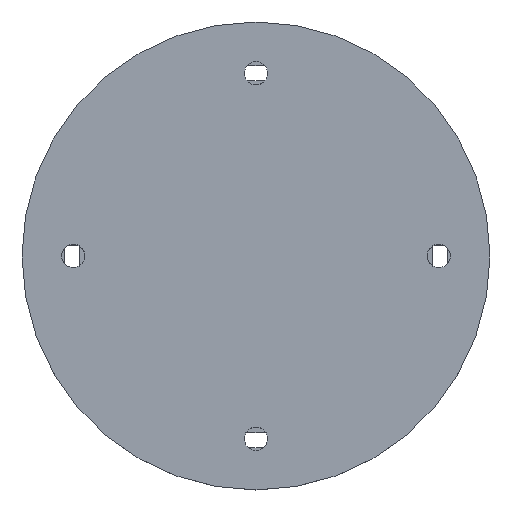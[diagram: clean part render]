
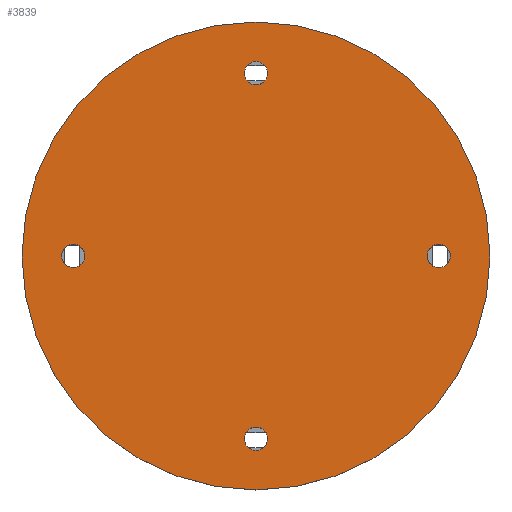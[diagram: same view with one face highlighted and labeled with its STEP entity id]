
A CAD part, top view. The second image highlights one B-rep face of the part: STEP entity #3839.
In plain terms, the highlighted planar face has unit normal (0, 0, 1).
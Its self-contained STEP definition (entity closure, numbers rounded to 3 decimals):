
#63=FACE_BOUND('',#475,.T.);
#64=FACE_BOUND('',#476,.T.);
#65=FACE_BOUND('',#477,.T.);
#66=FACE_BOUND('',#478,.T.);
#102=PLANE('',#4075);
#264=FACE_OUTER_BOUND('',#474,.T.);
#474=EDGE_LOOP('',(#2655));
#475=EDGE_LOOP('',(#2656));
#476=EDGE_LOOP('',(#2657));
#477=EDGE_LOOP('',(#2658));
#478=EDGE_LOOP('',(#2659));
#1545=CIRCLE('',#4062,1.55);
#1547=CIRCLE('',#4065,1.55);
#1549=CIRCLE('',#4068,1.55);
#1551=CIRCLE('',#4071,1.55);
#1552=CIRCLE('',#4073,31.);
#1679=VERTEX_POINT('',#5511);
#1681=VERTEX_POINT('',#5517);
#1683=VERTEX_POINT('',#5523);
#1685=VERTEX_POINT('',#5529);
#1686=VERTEX_POINT('',#5533);
#2058=EDGE_CURVE('',#1679,#1679,#1545,.T.);
#2061=EDGE_CURVE('',#1681,#1681,#1547,.T.);
#2064=EDGE_CURVE('',#1683,#1683,#1549,.T.);
#2067=EDGE_CURVE('',#1685,#1685,#1551,.T.);
#2068=EDGE_CURVE('',#1686,#1686,#1552,.T.);
#2655=ORIENTED_EDGE('',*,*,#2068,.T.);
#2656=ORIENTED_EDGE('',*,*,#2058,.T.);
#2657=ORIENTED_EDGE('',*,*,#2061,.T.);
#2658=ORIENTED_EDGE('',*,*,#2064,.T.);
#2659=ORIENTED_EDGE('',*,*,#2067,.T.);
#3839=ADVANCED_FACE('',(#264,#63,#64,#65,#66),#102,.T.);
#4062=AXIS2_PLACEMENT_3D('',#5513,#4411,#4412);
#4065=AXIS2_PLACEMENT_3D('',#5519,#4418,#4419);
#4068=AXIS2_PLACEMENT_3D('',#5525,#4425,#4426);
#4071=AXIS2_PLACEMENT_3D('',#5531,#4432,#4433);
#4073=AXIS2_PLACEMENT_3D('',#5534,#4436,#4437);
#4075=AXIS2_PLACEMENT_3D('',#5538,#4441,#4442);
#4411=DIRECTION('center_axis',(0.,0.,-1.));
#4412=DIRECTION('ref_axis',(1.,0.,0.));
#4418=DIRECTION('center_axis',(0.,0.,-1.));
#4419=DIRECTION('ref_axis',(1.,0.,0.));
#4425=DIRECTION('center_axis',(0.,0.,-1.));
#4426=DIRECTION('ref_axis',(1.,0.,0.));
#4432=DIRECTION('center_axis',(0.,0.,-1.));
#4433=DIRECTION('ref_axis',(1.,0.,0.));
#4436=DIRECTION('center_axis',(0.,0.,1.));
#4437=DIRECTION('ref_axis',(1.,0.,0.));
#4441=DIRECTION('center_axis',(0.,0.,1.));
#4442=DIRECTION('ref_axis',(1.,0.,0.));
#5511=CARTESIAN_POINT('',(22.675,0.,89.));
#5513=CARTESIAN_POINT('Origin',(24.225,0.,
89.));
#5517=CARTESIAN_POINT('',(-1.55,-24.225,89.));
#5519=CARTESIAN_POINT('Origin',(0.,-24.225,
89.));
#5523=CARTESIAN_POINT('',(-1.55,24.225,89.));
#5525=CARTESIAN_POINT('Origin',(0.,24.225,
89.));
#5529=CARTESIAN_POINT('',(-25.775,0.,89.));
#5531=CARTESIAN_POINT('Origin',(-24.225,0.,
89.));
#5533=CARTESIAN_POINT('',(-31.,0.,89.));
#5534=CARTESIAN_POINT('Origin',(0.,0.,89.));
#5538=CARTESIAN_POINT('Origin',(0.,0.,89.));
